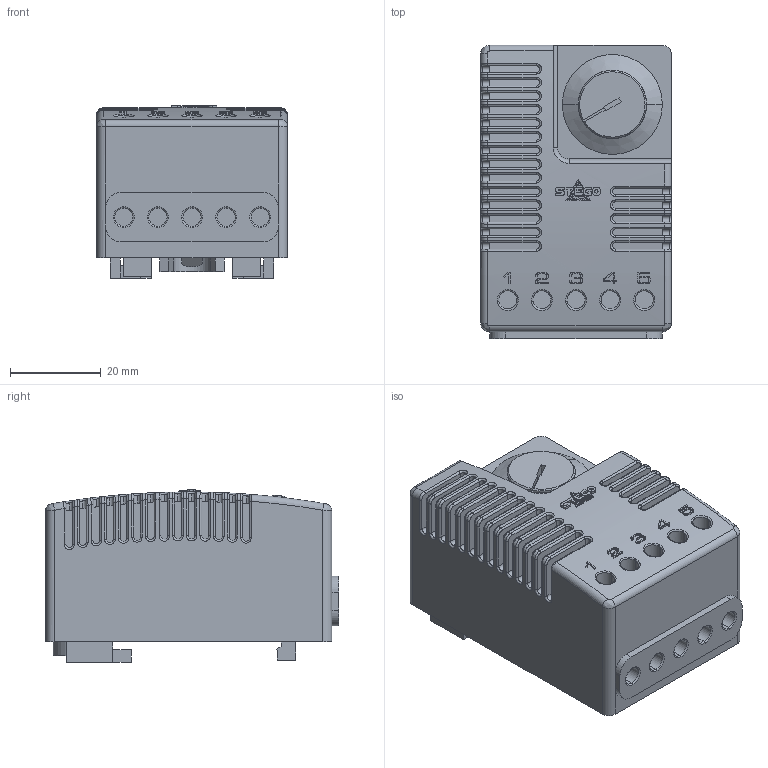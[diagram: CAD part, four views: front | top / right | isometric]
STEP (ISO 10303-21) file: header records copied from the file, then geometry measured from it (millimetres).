
FILE_DESCRIPTION (( 'STEP AP214' ), '1' );
FILE_NAME ('EFRETR für EPLAN.STEP', '2013-08-06T11:14:17', ( 'Nutzer' ), ( '' ), 'SwSTEP 2.0', 'SolidWorks 2013', '' );
FILE_SCHEMA (( 'AUTOMOTIVE_DESIGN' ));
Length unit declared in the file: millimetre
Products named in the file (1): EFRETR f黵 EPLAN
Bounding box: 42 x 64.5 x 38 mm (x, y, z)
Volume: 79922.7 mm3; surface area: 15253.6 mm2
Topology: 5 solids, 5 shells, 719 faces, 1895 edges, 1202 vertices
Faces by surface type: plane 310, cylinder 196, bspline 157, torus 51, cone 5
Entity records: 30843 total; most frequent: CARTESIAN_POINT 13833, ORIENTED_EDGE 3790, DIRECTION 3035, EDGE_CURVE 1895, VERTEX_POINT 1202, LINE 1095, VECTOR 1095, AXIS2_PLACEMENT_3D 970
